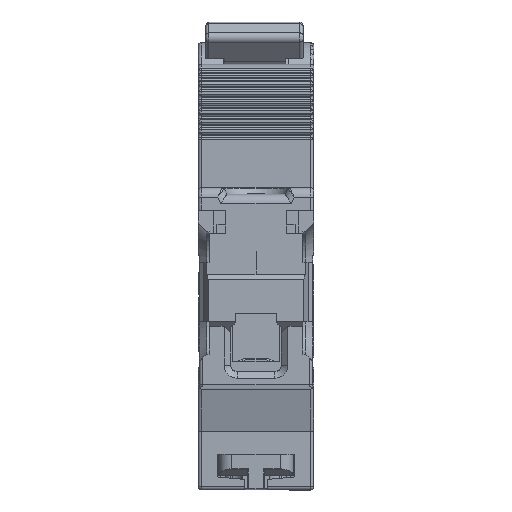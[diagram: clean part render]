
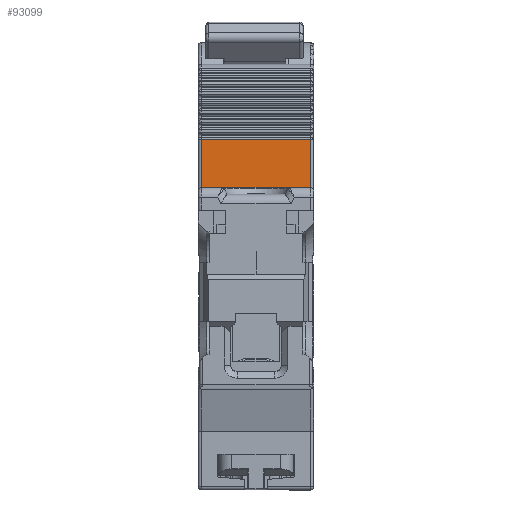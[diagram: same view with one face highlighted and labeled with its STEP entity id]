
A CAD part, front view. The second image highlights one B-rep face of the part: STEP entity #93099.
In plain terms, the highlighted planar face has unit normal (0, -1, 0) as drawn and (-1, 0, 0) by its records, which use the part's own axes.
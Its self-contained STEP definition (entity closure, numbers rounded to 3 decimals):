
#1741 = EDGE_CURVE ( 'NONE', #82660, #70927, #33365, .T. ) ;
#5118 = DIRECTION ( 'NONE',  ( 0., -1., 0. ) ) ;
#7058 = LINE ( 'NONE', #40598, #15130 ) ;
#12604 = CARTESIAN_POINT ( 'NONE',  ( -22.5, -5.7, 8.9 ) ) ;
#13453 = FACE_OUTER_BOUND ( 'NONE', #87731, .T. ) ;
#13900 = VECTOR ( 'NONE', #54673, 1000. ) ;
#15130 = VECTOR ( 'NONE', #31261, 1000. ) ;
#17671 = ORIENTED_EDGE ( 'NONE', *, *, #80199, .T. ) ;
#18397 = VERTEX_POINT ( 'NONE', #101786 ) ;
#19261 = DIRECTION ( 'NONE',  ( 0., 1., 0. ) ) ;
#20862 = CARTESIAN_POINT ( 'NONE',  ( -22.5, -5.7, 8.9 ) ) ;
#28673 = VECTOR ( 'NONE', #5118, 1000. ) ;
#31261 = DIRECTION ( 'NONE',  ( 0., 1., 0. ) ) ;
#31805 = VECTOR ( 'NONE', #91292, 1000. ) ;
#33365 = LINE ( 'NONE', #77309, #82617 ) ;
#36290 = LINE ( 'NONE', #12604, #45839 ) ;
#40598 = CARTESIAN_POINT ( 'NONE',  ( -22.5, -5.7, 0.5 ) ) ;
#43248 = LINE ( 'NONE', #80383, #28673 ) ;
#43789 = DIRECTION ( 'NONE',  ( 0., 0., -1. ) ) ;
#45839 = VECTOR ( 'NONE', #19261, 1000. ) ;
#46998 = DIRECTION ( 'NONE',  ( -1., 0., 0. ) ) ;
#47836 = ORIENTED_EDGE ( 'NONE', *, *, #100735, .F. ) ;
#49116 = CARTESIAN_POINT ( 'NONE',  ( -22.5, -5., 8.9 ) ) ;
#50191 = EDGE_CURVE ( 'NONE', #97623, #71460, #92686, .T. ) ;
#51139 = CARTESIAN_POINT ( 'NONE',  ( -22.5, 2.48, 17.3 ) ) ;
#54673 = DIRECTION ( 'NONE',  ( 0., 0., -1. ) ) ;
#57716 = LINE ( 'NONE', #51139, #31805 ) ;
#62918 = DIRECTION ( 'NONE',  ( 0., 0., 1. ) ) ;
#63846 = ORIENTED_EDGE ( 'NONE', *, *, #50191, .F. ) ;
#65073 = PLANE ( 'NONE',  #79889 ) ;
#68496 = ORIENTED_EDGE ( 'NONE', *, *, #88186, .T. ) ;
#69677 = CARTESIAN_POINT ( 'NONE',  ( -22.5, -5., 17.3 ) ) ;
#70927 = VERTEX_POINT ( 'NONE', #95516 ) ;
#71460 = VERTEX_POINT ( 'NONE', #49116 ) ;
#72780 = CARTESIAN_POINT ( 'NONE',  ( -22.5, -5., 17.8 ) ) ;
#77309 = CARTESIAN_POINT ( 'NONE',  ( -22.5, -5.7, 8.9 ) ) ;
#77347 = ORIENTED_EDGE ( 'NONE', *, *, #90438, .F. ) ;
#78681 = VERTEX_POINT ( 'NONE', #87679 ) ;
#79889 = AXIS2_PLACEMENT_3D ( 'NONE', #72780, #46998, #62918 ) ;
#80199 = EDGE_CURVE ( 'NONE', #82660, #71460, #36290, .T. ) ;
#80383 = CARTESIAN_POINT ( 'NONE',  ( -22.5, 2.48, 17.3 ) ) ;
#82617 = VECTOR ( 'NONE', #43789, 1000. ) ;
#82660 = VERTEX_POINT ( 'NONE', #20862 ) ;
#84433 = CARTESIAN_POINT ( 'NONE',  ( -22.5, -5., 17.3 ) ) ;
#87679 = CARTESIAN_POINT ( 'NONE',  ( -22.5, 2.48, 0.5 ) ) ;
#87731 = EDGE_LOOP ( 'NONE', ( #100530, #17671, #63846, #77347, #68496, #47836 ) ) ;
#88186 = EDGE_CURVE ( 'NONE', #18397, #78681, #57716, .T. ) ;
#90438 = EDGE_CURVE ( 'NONE', #18397, #97623, #43248, .T. ) ;
#91292 = DIRECTION ( 'NONE',  ( 0., 0., -1. ) ) ;
#92686 = LINE ( 'NONE', #84433, #13900 ) ;
#93099 = ADVANCED_FACE ( 'NONE', ( #13453 ), #65073, .T. ) ;
#95516 = CARTESIAN_POINT ( 'NONE',  ( -22.5, -5.7, 0.5 ) ) ;
#97623 = VERTEX_POINT ( 'NONE', #69677 ) ;
#100530 = ORIENTED_EDGE ( 'NONE', *, *, #1741, .F. ) ;
#100735 = EDGE_CURVE ( 'NONE', #70927, #78681, #7058, .T. ) ;
#101786 = CARTESIAN_POINT ( 'NONE',  ( -22.5, 2.48, 17.3 ) ) ;
